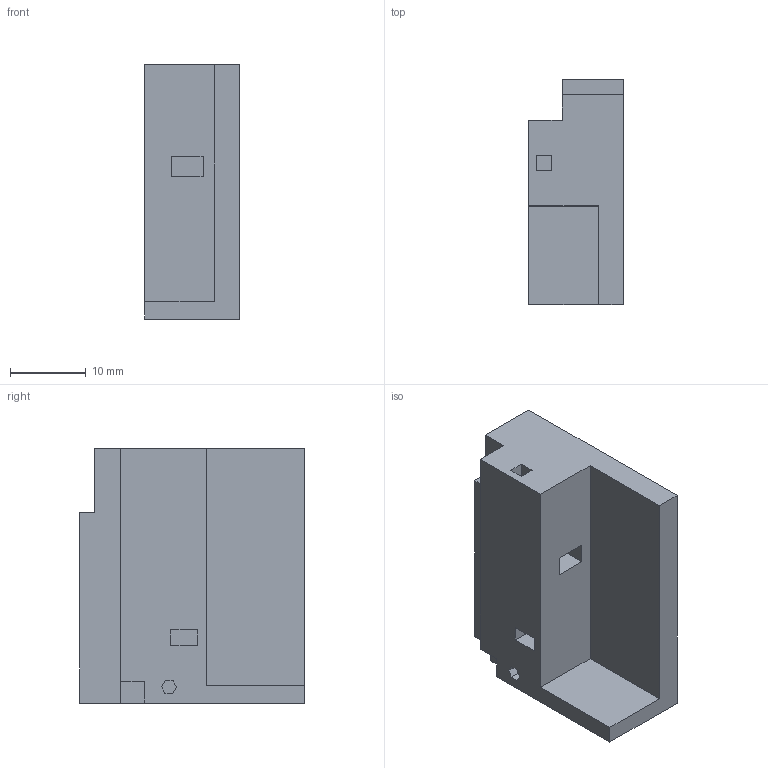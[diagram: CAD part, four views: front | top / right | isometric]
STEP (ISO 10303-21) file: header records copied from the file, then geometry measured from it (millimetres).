
FILE_DESCRIPTION(('Open CASCADE Model'),'2;1');
FILE_NAME('Open CASCADE Shape Model','2021-05-10T19:47:26',('Author'),( 'Open CASCADE'),'Open CASCADE STEP processor 7.4','Open CASCADE 7.4' ,'Unknown');
FILE_SCHEMA(('AUTOMOTIVE_DESIGN { 1 0 10303 214 1 1 1 1 }'));
Length unit declared in the file: millimetre
Products named in the file (1): Open CASCADE STEP translator 7.4 628
Bounding box: 12.52 x 29.62 x 33.53 mm (x, y, z)
Volume: 7482.6 mm3; surface area: 3772.7 mm2
Topology: 1 solids, 1 shells, 43 faces, 108 edges, 72 vertices
Faces by surface type: plane 43
Entity records: 2676 total; most frequent: CARTESIAN_POINT 440, DIRECTION 412, LINE 324, VECTOR 324, ORIENTED_EDGE 216, PCURVE 216, DEFINITIONAL_REPRESENTATION 216, EDGE_CURVE 108
